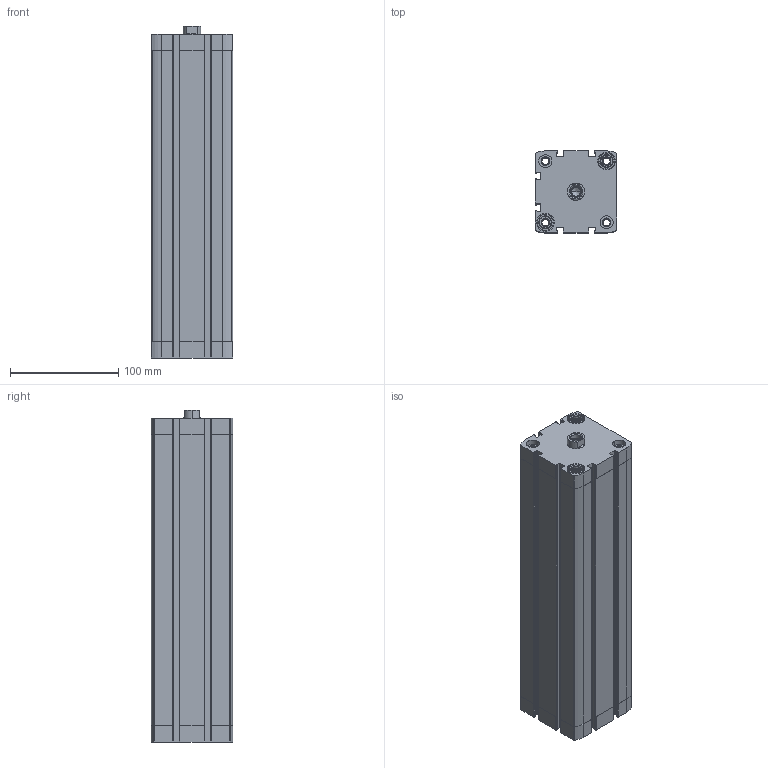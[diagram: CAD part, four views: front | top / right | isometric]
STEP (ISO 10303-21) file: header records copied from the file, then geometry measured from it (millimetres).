
FILE_DESCRIPTION (( 'STEP AP203' ), '1' );
FILE_NAME ('CCN63-250F.STEP', '2017-04-05T16:30:34', ( '' ), ( '' ), 'SwSTEP 2.0', 'SolidWorks 2016', '' );
FILE_SCHEMA (( 'CONFIG_CONTROL_DESIGN' ));
Length unit declared in the file: millimetre
Products named in the file (3): CCN-250---(Z); CCN-250_(KS); CCN63-250F
Assembly tree (2 placements, depth 2):
  CCN63-250F
    CCN-250---(Z)
    CCN-250_(KS)
Bounding box: 75.5 x 75.5 x 306.5 mm (x, y, z)
Volume: 839344.7 mm3; surface area: 232401.4 mm2
Topology: 2 solids, 2 shells, 471 faces, 1276 edges, 839 vertices
Faces by surface type: plane 219, cylinder 210, cone 42
Entity records: 15329 total; most frequent: CARTESIAN_POINT 2883, DIRECTION 2600, ORIENTED_EDGE 2548, EDGE_CURVE 1274, AXIS2_PLACEMENT_3D 948, VERTEX_POINT 839, VECTOR 704, LINE 704
